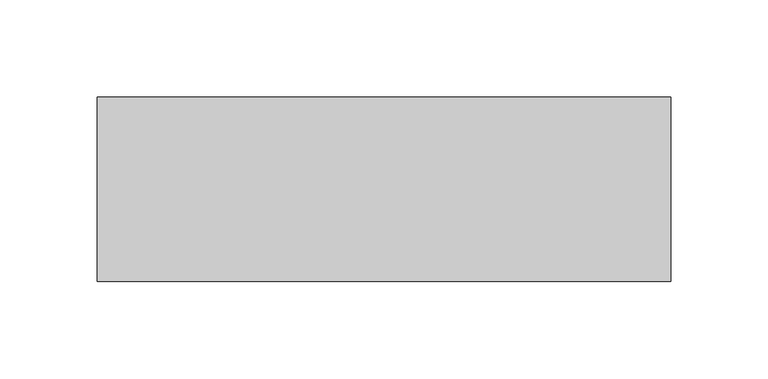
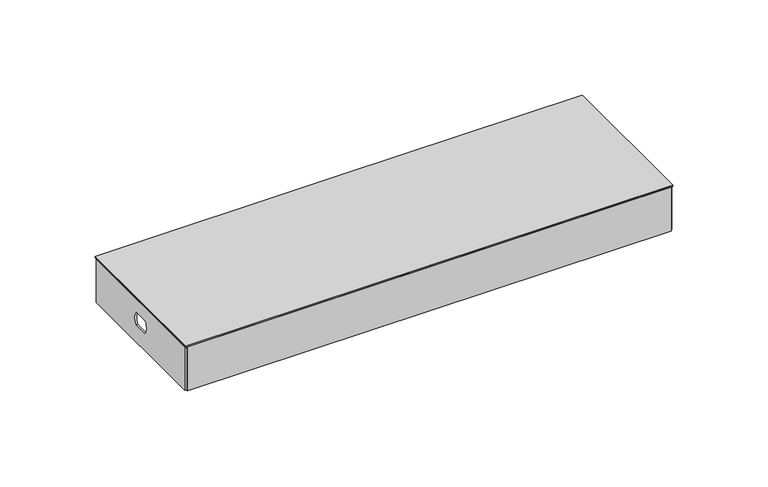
"""IFC4 building model written with IfcOpenShell, lengths in millimetres: proxy geometry, Cable_Tray_FinalCover_TFCT_Basorcanal : Basorcanal TFCT 100X300."""

from ifc_helpers import new_model, si_unit, point, frame, frame_2d, origin, origin_with_axes, place, context, project, spatial, polyline, circle_curve, trimmed, segment, composite_curve, outline, extrude, source, transform, mapped, element, save


def generic_models_5cec7ab9(model_context):
    return source(origin(), model_context, "Body", "SweptSolid", [
        extrude(outline(polyline([(-46.5, 0.0), (46.5, 0.0), (46.5, -28.0), (-46.5, -28.0), (-46.5, 0.0)]), holes=[composite_curve([segment(polyline([(4.472136, -9.0), (-4.472136, -9.0)]), True, "CONTINUOUS"), segment(trimmed(circle_curve(frame_2d((0.0, -13.0)), 6.0), [point((-4.472136, -9.0))], [point((-4.472136, -17.0))], True, "CARTESIAN"), True, "CONTINUOUS"), segment(polyline([(-4.472136, -17.0), (4.472136, -17.0)]), True, "CONTINUOUS"), segment(trimmed(circle_curve(frame_2d((0.0, -13.0)), 6.0), [point((4.472136, -17.0))], [point((4.472136, -9.0))], True, "CARTESIAN"), True, "CONTINUOUS")], self_intersect=False)]), frame((-147.5, 0.0, 0.0), z_axis=(1.0, 0.0, 0.0), x_axis=(0.0, 1.0, 0.0)), (0.0, 0.0, 1.0), 1.0),
        extrude(outline(polyline([(-46.5, 0.0), (46.5, 0.0), (46.5, -28.0), (-46.5, -28.0), (-46.5, 0.0)]), holes=[composite_curve([segment(polyline([(4.472136, -9.0), (-4.472136, -9.0)]), True, "CONTINUOUS"), segment(trimmed(circle_curve(frame_2d((0.0, -13.0)), 6.0), [point((-4.472136, -9.0))], [point((-4.472136, -17.0))], True, "CARTESIAN"), True, "CONTINUOUS"), segment(polyline([(-4.472136, -17.0), (4.472136, -17.0)]), True, "CONTINUOUS"), segment(trimmed(circle_curve(frame_2d((0.0, -13.0)), 6.0), [point((4.472136, -17.0))], [point((4.472136, -9.0))], True, "CARTESIAN"), True, "CONTINUOUS")], self_intersect=False)]), frame((146.5, 0.0, 0.0), z_axis=(1.0, 0.0, 0.0), x_axis=(0.0, 1.0, 0.0)), (0.0, 0.0, 1.0), 1.0),
        extrude(outline(polyline([(146.5, 47.5), (146.5, 46.5), (-146.5, 46.5), (-146.5, 47.5), (146.5, 47.5)])), frame((0.0, 0.0, -28.0), z_axis=(0.0, 0.0, 1.0), x_axis=(1.0, 0.0, 0.0)), (0.0, 0.0, 1.0), 28.0),
        extrude(outline(polyline([(-146.5, -46.5), (146.5, -46.5), (146.5, -47.5), (-146.5, -47.5), (-146.5, -46.5)])), frame((0.0, 0.0, -28.0), z_axis=(0.0, 0.0, 1.0), x_axis=(1.0, 0.0, 0.0)), (0.0, 0.0, 1.0), 28.0),
        extrude(outline(polyline([(-147.5, 47.5), (0.0, 47.5), (147.5, 47.5), (147.5, -47.5), (0.0, -47.5), (-147.5, -47.5), (-147.5, 47.5)])), origin_with_axes(), (0.0, 0.0, 1.0), 1.0),
    ])


if __name__ == "__main__":
    model = new_model("IFC4")
    model_context = context("Model", 3, world=origin())
    ifc_project = project(units=[si_unit("LENGTHUNIT", "METRE", prefix="MILLI")], contexts=[model_context])
    site = spatial("IfcSite", under=ifc_project)
    building = spatial("IfcBuilding", under=site)
    placement = place(None, origin())
    generic_models_shape = generic_models_5cec7ab9(model_context)
    element("IfcBuildingElementProxy", 1, Name="Cable_Tray_FinalCover_TFCT_Basorcanal : Basorcanal TFCT 100X300", ObjectType="Cable_Tray_FinalCover_TFCT_Basorcanal : Basorcanal TFCT 100X300", at=placement, inside=building, context=model_context, shape_type="MappedRepresentation", body=[
        mapped(generic_models_shape, transform((0.0, 0.0, 0.0), x_axis=(1.0, 0.0, 0.0), y_axis=(0.0, 1.0, 0.0), z_axis=(0.0, 0.0, 1.0))),
    ])
    save(model, "model.ifc")
